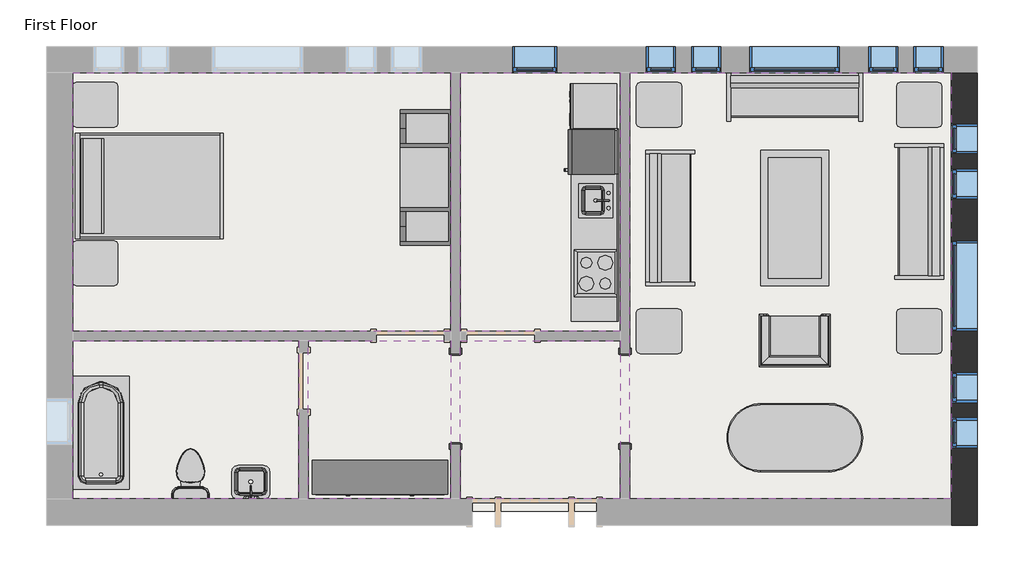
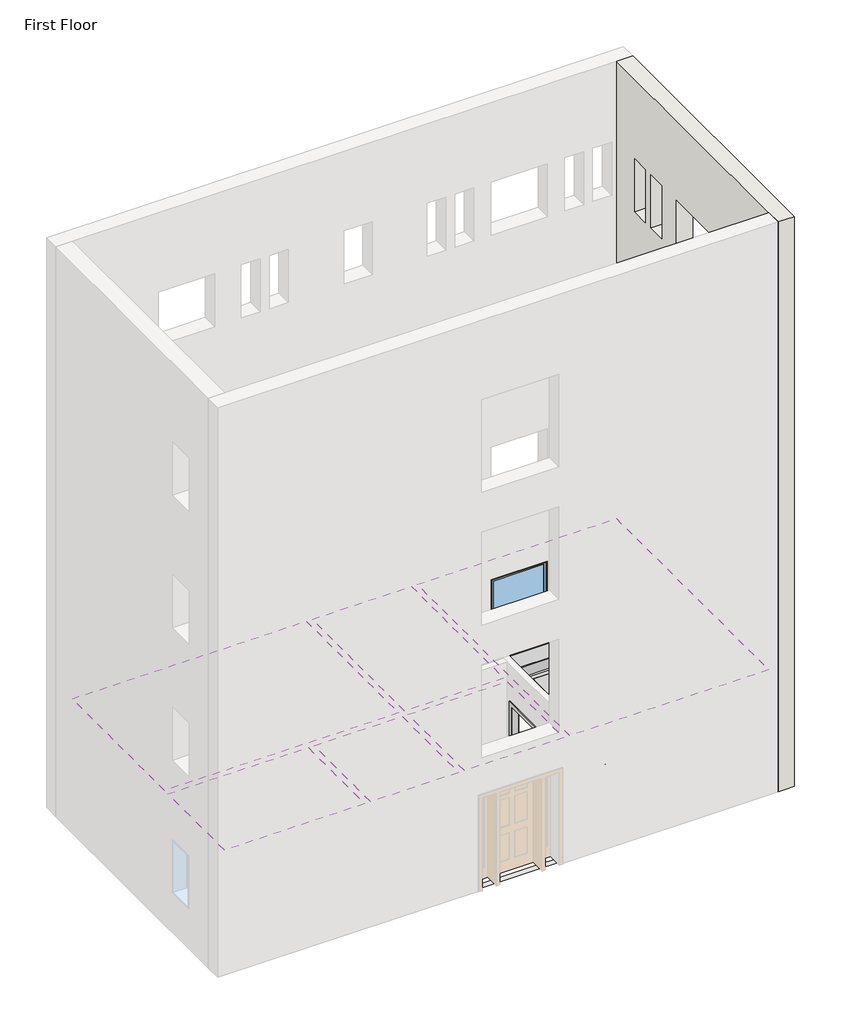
# One storey, part 2 of 2: 16 furniture elements, 11 windows, 6 coverings, 6 proxies, 4 flow terminals, 1 slab, 1 wall.
"""IFC4 building model written with IfcOpenShell, lengths in millimetres."""

from ifc_helpers import new_model, si_unit, frame, origin, place, context, project, spatial, polyline, outline, extrude, faceted_brep, transform, mapped, element, save
from components import proxy_dfcd9396, proxy_3c49123c, proxy_7a545507, proxy_f44482cc, proxy_ec3341c2, flow_terminal_41332a36, flow_terminal_62a433f7, toilet_domestic_3d_toilet_domestic_3d_f7549cf7, toilet_domestic_3d_toilet_domestic_3d_183bbd19, tub_rectangular_3d_tub_rectangular_3d_15036965, furniture_096e7f55, chair_corbu_chair_corbu_2764bdef, furniture_6db689a5, furniture_7c473f12, furniture_cf0b6580, furniture_a4ffab56, furniture_cd93a443, furniture_2c34a4f9, furniture_3a588284, window_da97879f, window_d61ef850, window_60baf983, window_6eb97611

model = new_model("IFC4")

# Units and contexts
model_context = context("Model", 3, world=origin())
ifc_project = project(units=[si_unit("LENGTHUNIT", "METRE", prefix="MILLI")], contexts=[model_context])

# Site, building, storey
site = spatial("IfcSite", under=ifc_project)
building = spatial("IfcBuilding", under=site)
storey = spatial("IfcBuildingStorey", under=building, Name="First Floor", Elevation=0.0)

# Proxies
placement = place(None, origin())
proxy_shape = proxy_dfcd9396(model_context)
element("IfcBuildingElementProxy", 1, Name="Cook Top-4 Unit2 : 22\" x 20\"", ObjectType="Cook Top-4 Unit2 : 22\" x 20\"", at=placement, inside=storey, context=model_context, shape_type="MappedRepresentation", body=[
    mapped(proxy_shape, transform((-4167.1589563, 7568.5224391, 0.0), x_axis=(0.0, 1.0000000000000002, 0.0), y_axis=(-1.0000000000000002, 0.0, 0.0), z_axis=(0.0, 0.0, 1.0))),
])
proxy_2_shape = proxy_3c49123c(model_context)
element("IfcBuildingElementProxy", 2, Name="Dishwasher : 24\" x 24\" x 34\"", ObjectType="Dishwasher : 24\" x 24\" x 34\"", at=placement, inside=storey, context=model_context, shape_type="MappedRepresentation", body=[
    mapped(proxy_2_shape, transform((-4459.0085211, 9434.1049706, 0.0), x_axis=(0.0, 1.0000000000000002, 0.0), y_axis=(-1.0000000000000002, 0.0, 0.0), z_axis=(0.0, 0.0, 1.0))),
])
proxy_3_shape = proxy_7a545507(model_context)
element("IfcBuildingElementProxy", 3, Name="Kitchenette - Medium : 8'6\"", ObjectType="Kitchenette - Medium : 8'6\"", at=placement, inside=storey, context=model_context, shape_type="MappedRepresentation", body=[
    mapped(proxy_3_shape, transform((-3862.3589563, 8197.4847342, 0.0), x_axis=(0.0, 1.0000000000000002, 0.0), y_axis=(-1.0000000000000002, 0.0, 0.0), z_axis=(0.0, 0.0, 1.0))),
])
proxy_4_shape = proxy_f44482cc(model_context)
element("IfcBuildingElementProxy", 4, Name="Opening-Cased : 48\" x 84\"", ObjectType="Opening-Cased : 48\" x 84\"", at=placement, inside=storey, context=model_context, shape_type="MappedRepresentation", body=[
    mapped(proxy_4_shape, transform((-3773.4589563, 5882.4203434, 0.0), x_axis=(0.0, 1.0, 0.0), y_axis=(-1.0, 0.0, 0.0), z_axis=(0.0, 0.0, 1.0))),
])
element("IfcBuildingElementProxy", 5, Name="Opening-Cased : 48\" x 84\"", ObjectType="Opening-Cased : 48\" x 84\"", at=placement, inside=storey, context=model_context, shape_type="MappedRepresentation", body=[
    mapped(proxy_4_shape, transform((-6059.4589563, 5866.04303, 0.0), x_axis=(0.0, -1.0, 0.0), y_axis=(1.0, 0.0, 0.0), z_axis=(0.0, 0.0, 1.0))),
])
proxy_5_shape = proxy_ec3341c2(model_context)
element("IfcBuildingElementProxy", 6, Name="Refrigerator : 24\" x 25\" LH", ObjectType="Refrigerator : 24\" x 25\" LH", at=placement, inside=storey, context=model_context, shape_type="MappedRepresentation", body=[
    mapped(proxy_5_shape, transform((-4212.8079278, 9200.4724391, 0.0), x_axis=(0.0, 1.0000000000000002, 0.0), y_axis=(-1.0000000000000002, 0.0, 0.0), z_axis=(0.0, 0.0, 1.0))),
])

# Coverings
element("IfcCovering", 7, ObjectType="GWB on Mtl. Stud", at=placement, inside=storey, context=model_context, shape_type="SweptSolid", body=[
    extrude(outline(polyline([(-11217.2464563, 10270.0191867), (-6122.9589563, 10270.0191867), (-6122.9589563, 6787.0441867), (-11217.2464563, 6787.0441867), (-11217.2464563, 10270.0191867)])), frame((0.0, 0.0, 2590.8), z_axis=(0.0, 0.0, 1.0), x_axis=(1.0, 0.0, 0.0)), (0.0, 0.0, 1.0), 107.95),
])
element("IfcCovering", 8, ObjectType="GWB on Mtl. Stud", at=placement, inside=storey, context=model_context, shape_type="SweptSolid", body=[
    extrude(outline(polyline([(-5995.9589563, 6787.0441867), (-5995.9589563, 10270.0191867), (-3836.9589563, 10270.0191867), (-3836.9589563, 6787.0441867), (-5995.9589563, 6787.0441867)])), frame((0.0, 0.0, 2590.8), z_axis=(0.0, 0.0, 1.0), x_axis=(1.0, 0.0, 0.0)), (0.0, 0.0, 1.0), 107.95),
])
element("IfcCovering", 9, ObjectType="GWB on Mtl. Stud", at=placement, inside=storey, context=model_context, shape_type="SweptSolid", body=[
    extrude(outline(polyline([(-3709.9589563, 4526.4441867), (-3709.9589563, 10270.0191867), (622.3285437, 10270.0191867), (622.3285437, 4526.4441867), (-3709.9589563, 4526.4441867)])), frame((0.0, 0.0, 2590.8), z_axis=(0.0, 0.0, 1.0), x_axis=(1.0, 0.0, 0.0)), (0.0, 0.0, 1.0), 107.95),
])
element("IfcCovering", 10, ObjectType="GWB on Mtl. Stud", at=placement, inside=storey, context=model_context, shape_type="SweptSolid", body=[
    extrude(outline(polyline([(-3836.9589563, 4526.4441867), (-5995.9589563, 4526.4441867), (-5995.9589563, 6660.0441867), (-3836.9589563, 6660.0441867), (-3836.9589563, 4526.4441867)])), frame((0.0, 0.0, 2590.8), z_axis=(0.0, 0.0, 1.0), x_axis=(1.0, 0.0, 0.0)), (0.0, 0.0, 1.0), 107.95),
])
element("IfcCovering", 11, ObjectType="GWB on Mtl. Stud", at=placement, inside=storey, context=model_context, shape_type="SweptSolid", body=[
    extrude(outline(polyline([(-8169.2464563, 6660.0441867), (-8169.2464563, 4526.4441867), (-11217.2464563, 4526.4441867), (-11217.2464563, 6660.0441867), (-8169.2464563, 6660.0441867)])), frame((0.0, 0.0, 2590.8), z_axis=(0.0, 0.0, 1.0), x_axis=(1.0, 0.0, 0.0)), (0.0, 0.0, 1.0), 107.95),
])
element("IfcCovering", 12, ObjectType="GWB on Mtl. Stud", at=placement, inside=storey, context=model_context, shape_type="SweptSolid", body=[
    extrude(outline(polyline([(-6122.9589563, 4526.4441867), (-8042.2464563, 4526.4441867), (-8042.2464563, 6660.0441867), (-6122.9589563, 6660.0441867), (-6122.9589563, 4526.4441867)])), frame((0.0, 0.0, 2590.8), z_axis=(0.0, 0.0, 1.0), x_axis=(1.0, 0.0, 0.0)), (0.0, 0.0, 1.0), 107.95),
])

# Flow terminals
flow_terminal_shape = flow_terminal_41332a36(model_context)
element("IfcFlowTerminal", 13, ObjectType="Sink Kitchen-Island : 18\" x 18\"", at=placement, inside=storey, context=model_context, shape_type="MappedRepresentation", body=[
    mapped(flow_terminal_shape, transform((-4169.5043574, 8530.7331986, -14.4), x_axis=(0.0, 1.0000000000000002, 0.0), y_axis=(-1.0000000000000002, 0.0, 0.0), z_axis=(0.0, 0.0, 1.0))),
])
flow_terminal_2_shape = flow_terminal_62a433f7(model_context)
element("IfcFlowTerminal", 14, ObjectType="Sink Vanity-Square : 20\" x 18\"", at=placement, inside=storey, context=model_context, shape_type="MappedRepresentation", body=[
    mapped(flow_terminal_2_shape, transform((-8801.2572158, 4706.5895878, 0.0), x_axis=(-1.0, 0.0, 0.0), y_axis=(0.0, -1.0, 0.0), z_axis=(0.0, 0.0, 1.0))),
])
toilet_domestic_3d_toilet_domestic_3d_shape = toilet_domestic_3d_toilet_domestic_3d_f7549cf7(model_context)
toilet_domestic_3d_toilet_domestic_3d_2_shape = toilet_domestic_3d_toilet_domestic_3d_183bbd19(model_context)
element("IfcFlowTerminal", 15, ObjectType="Toilet-Domestic-3D : Toilet-Domestic-3D", at=placement, inside=storey, context=model_context, shape_type="MappedRepresentation", body=[
    mapped(toilet_domestic_3d_toilet_domestic_3d_shape, transform((-9629.7464563, 4894.7441867, 0.0), x_axis=(-1.0, 0.0, 0.0), y_axis=(0.0, -1.0, 0.0), z_axis=(0.0, 0.0, 1.0))),
    mapped(toilet_domestic_3d_toilet_domestic_3d_2_shape, transform((-9629.7464563, 4894.7441867, 0.0), x_axis=(-1.0, 0.0, 0.0), y_axis=(0.0, -1.0, 0.0), z_axis=(0.0, 0.0, 1.0))),
])
tub_rectangular_3d_tub_rectangular_3d_shape = tub_rectangular_3d_tub_rectangular_3d_15036965(model_context)
element("IfcFlowTerminal", 16, ObjectType="Tub-Rectangular-3D : Tub-Rectangular-3D", at=placement, inside=storey, context=model_context, shape_type="MappedRepresentation", body=[
    mapped(tub_rectangular_3d_tub_rectangular_3d_shape, transform((-11393.4589563, 5765.6346554, 0.0), x_axis=(0.0, 1.0, 0.0), y_axis=(-1.0, 0.0, 0.0), z_axis=(0.0, 0.0, 1.0))),
])

# Furniture
furniture_shape = furniture_096e7f55(model_context)
element("IfcFurniture", 17, ObjectType="Bed-Shaker : Double 56\" x 78\"", at=placement, inside=storey, context=model_context, shape_type="MappedRepresentation", body=[
    mapped(furniture_shape, transform((-11172.0857802, 8763.4816867, 0.0), x_axis=(0.0, 1.0, 0.0), y_axis=(-1.0, 0.0, 0.0), z_axis=(0.0, 0.0, 1.0))),
])
chair_corbu_chair_corbu_shape = chair_corbu_chair_corbu_2764bdef(model_context)
element("IfcFurniture", 18, ObjectType="Chair-Corbu : Chair-Corbu", at=placement, inside=storey, context=model_context, shape_type="MappedRepresentation", body=[
    mapped(chair_corbu_chair_corbu_shape, transform((-914.0851858, 7126.8212359, 0.0), x_axis=(-1.0, 0.0, 0.0), y_axis=(0.0, -1.0, 0.0), z_axis=(0.0, 0.0, 1.0))),
])
furniture_2_shape = furniture_6db689a5(model_context)
element("IfcFurniture", 19, ObjectType="Counter Top w Sink Hole : 24\" Depth", at=placement, inside=storey, context=model_context, shape_type="MappedRepresentation", body=[
    mapped(furniture_2_shape, transform((-3862.3589563, 8121.2847342, -14.4), x_axis=(0.0, 1.0000000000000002, 0.0), y_axis=(-1.0000000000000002, 0.0, 0.0), z_axis=(0.0, 0.0, 1.0))),
])
furniture_3_shape = furniture_7c473f12(model_context)
element("IfcFurniture", 20, ObjectType="Dresser : 72\" x 60\" x 18\"", at=placement, inside=storey, context=model_context, shape_type="MappedRepresentation", body=[
    mapped(furniture_3_shape, transform((-6806.2656965, 5181.7071408, 0.0), x_axis=(1.0, 0.0, 0.0), y_axis=(0.0, 1.0, 0.0), z_axis=(0.0, 0.0, 1.0))),
])
furniture_4_shape = furniture_cf0b6580(model_context)
element("IfcFurniture", 21, ObjectType="Entertainment Center : 72\" x 72\" x 24\"", at=placement, inside=storey, context=model_context, shape_type="MappedRepresentation", body=[
    mapped(furniture_4_shape, transform((-6021.3589563, 8857.1441867, 0.0), x_axis=(0.0, -1.0, 0.0), y_axis=(1.0, 0.0, 0.0), z_axis=(0.0, 0.0, 1.0))),
])
furniture_5_shape = furniture_a4ffab56(model_context)
element("IfcFurniture", 22, ObjectType="Sofa : 72\"", at=placement, inside=storey, context=model_context, shape_type="MappedRepresentation", body=[
    mapped(furniture_5_shape, transform((-3017.704858, 8242.2611949, 0.0), x_axis=(0.0, 1.0, 0.0), y_axis=(-1.0, 0.0, 0.0), z_axis=(0.0, 0.0, 1.0))),
])
element("IfcFurniture", 23, ObjectType="Sofa : 72\"", at=placement, inside=storey, context=model_context, shape_type="MappedRepresentation", body=[
    mapped(furniture_5_shape, transform((-1557.8294481, 9801.5748071, 0.0), x_axis=(1.0, 0.0, 0.0), y_axis=(0.0, 1.0, 0.0), z_axis=(0.0, 0.0, 1.0))),
])
element("IfcFurniture", 24, ObjectType="Sofa : 72\"", at=placement, inside=storey, context=model_context, shape_type="MappedRepresentation", body=[
    mapped(furniture_5_shape, transform((42.7869453, 8470.3146785, 0.0), x_axis=(0.0, -1.0, 0.0), y_axis=(1.0, 0.0, 0.0), z_axis=(0.0, 0.0, 1.0))),
])
furniture_6_shape = furniture_cd93a443(model_context)
element("IfcFurniture", 25, ObjectType="Table-Coffee : 36\" x 72\" x 18\"", at=placement, inside=storey, context=model_context, shape_type="MappedRepresentation", body=[
    mapped(furniture_6_shape, transform((-1392.2478785, 8294.36592, 0.0), x_axis=(0.0, 1.0, 0.0), y_axis=(-1.0, 0.0, 0.0), z_axis=(0.0, 0.0, 1.0))),
])
furniture_7_shape = furniture_2c34a4f9(model_context)
element("IfcFurniture", 26, ObjectType="Table-Dining Oval : 36\" x 72\"", at=placement, inside=storey, context=model_context, shape_type="MappedRepresentation", body=[
    mapped(furniture_7_shape, transform((-1085.6392842, 5710.0425473, 0.0), x_axis=(1.0, 0.0, 0.0), y_axis=(0.0, 1.0, 0.0), z_axis=(0.0, 0.0, 1.0))),
])
furniture_8_shape = furniture_3a588284(model_context)
element("IfcFurniture", 27, ObjectType="Table-End : 24\" x 24\"", at=placement, inside=storey, context=model_context, shape_type="MappedRepresentation", body=[
    mapped(furniture_8_shape, transform((-119.5925866, 9684.2316867, 0.0), x_axis=(1.0, 0.0, 0.0), y_axis=(0.0, 1.0, 0.0), z_axis=(0.0, 0.0, 1.0))),
])
element("IfcFurniture", 28, ObjectType="Table-End : 24\" x 24\"", at=placement, inside=storey, context=model_context, shape_type="MappedRepresentation", body=[
    mapped(furniture_8_shape, transform((-11220.9800866, 7550.6316867, 0.0), x_axis=(1.0, 0.0, 0.0), y_axis=(0.0, 1.0, 0.0), z_axis=(0.0, 0.0, 1.0))),
])
element("IfcFurniture", 29, ObjectType="Table-End : 24\" x 24\"", at=placement, inside=storey, context=model_context, shape_type="MappedRepresentation", body=[
    mapped(furniture_8_shape, transform((-11220.9800866, 9684.2316867, 0.0), x_axis=(1.0, 0.0, 0.0), y_axis=(0.0, 1.0, 0.0), z_axis=(0.0, 0.0, 1.0))),
])
element("IfcFurniture", 30, ObjectType="Table-End : 24\" x 24\"", at=placement, inside=storey, context=model_context, shape_type="MappedRepresentation", body=[
    mapped(furniture_8_shape, transform((-3624.7925866, 9684.2316867, 0.0), x_axis=(1.0, 0.0, 0.0), y_axis=(0.0, 1.0, 0.0), z_axis=(0.0, 0.0, 1.0))),
])
element("IfcFurniture", 31, ObjectType="Table-End : 24\" x 24\"", at=placement, inside=storey, context=model_context, shape_type="MappedRepresentation", body=[
    mapped(furniture_8_shape, transform((-3624.7925866, 6634.6441867, 0.0), x_axis=(1.0, 0.0, 0.0), y_axis=(0.0, 1.0, 0.0), z_axis=(0.0, 0.0, 1.0))),
])
element("IfcFurniture", 32, ObjectType="Table-End : 24\" x 24\"", at=placement, inside=storey, context=model_context, shape_type="MappedRepresentation", body=[
    mapped(furniture_8_shape, transform((-119.5925866, 6634.6441867, 0.0), x_axis=(1.0, 0.0, 0.0), y_axis=(0.0, 1.0, 0.0), z_axis=(0.0, 0.0, 1.0))),
])

# Slab
element("IfcSlab", 33, ObjectType="LW Concrete on Metal Deck", at=placement, inside=storey, context=model_context, shape_type="SweptSolid", body=[
    extrude(outline(polyline([(787.4285437, 10435.1191867), (787.4285437, 4361.3441867), (-11382.3464563, 4361.3441867), (-11382.3464563, 10435.1191867), (787.4285437, 10435.1191867)])), frame((0.0, 0.0, -104.775), z_axis=(0.0, 0.0, 1.0), x_axis=(1.0, 0.0, 0.0)), (0.0, 0.0, 1.0), 104.775),
])

# Wall
element("IfcWall", 34, ObjectType="Exterior - Brick on Mtl. Stud", at=placement, inside=storey, context=model_context, shape_type="Brep", body=[
    faceted_brep([(622.3285437, 10270.0191867, 13106.4), (622.3285437, 4526.4441867, 13106.4), (622.3285437, 4174.0191867, 13106.4), (974.7535437, 4174.0191867, 13106.4), (974.7535437, 10270.0191867, 13106.4), (622.3285437, 10270.0191867, 0.0), (622.3285437, 4526.4441867, 0.0), (622.3285437, 4361.3441867, 0.0), (622.3285437, 4174.0191867, 0.0), (622.3285437, 5823.4316867, 8229.6), (622.3285437, 5823.4316867, 7010.4), (622.3285437, 6229.8316867, 7010.4), (622.3285437, 6229.8316867, 8229.6), (622.3285437, 5213.8316867, 8229.6), (622.3285437, 5213.8316867, 7010.4), (622.3285437, 5620.2316867, 7010.4), (622.3285437, 5620.2316867, 8229.6), (622.3285437, 8973.0316867, 8229.6), (622.3285437, 8566.6316867, 8229.6), (622.3285437, 8566.6316867, 7010.4), (622.3285437, 8973.0316867, 7010.4), (622.3285437, 9582.6316867, 8229.6), (622.3285437, 9176.2316867, 8229.6), (622.3285437, 9176.2316867, 7010.4), (622.3285437, 9582.6316867, 7010.4), (622.3285437, 8007.8316867, 8229.6), (622.3285437, 6788.6316867, 8229.6), (622.3285437, 6788.6316867, 7010.4), (622.3285437, 8007.8316867, 7010.4), (622.3285437, 5823.4316867, 5181.6), (622.3285437, 5823.4316867, 3962.4), (622.3285437, 6229.8316867, 3962.4), (622.3285437, 6229.8316867, 5181.6), (622.3285437, 5213.8316867, 5181.6), (622.3285437, 5213.8316867, 3962.4), (622.3285437, 5620.2316867, 3962.4), (622.3285437, 5620.2316867, 5181.6), (622.3285437, 8973.0316867, 5181.6), (622.3285437, 8566.6316867, 5181.6), (622.3285437, 8566.6316867, 3962.4), (622.3285437, 8973.0316867, 3962.4), (622.3285437, 9582.6316867, 5181.6), (622.3285437, 9176.2316867, 5181.6), (622.3285437, 9176.2316867, 3962.4), (622.3285437, 9582.6316867, 3962.4), (622.3285437, 8007.8316867, 5181.6), (622.3285437, 6788.6316867, 5181.6), (622.3285437, 6788.6316867, 3962.4), (622.3285437, 8007.8316867, 3962.4), (622.3285437, 5823.4316867, 11277.6), (622.3285437, 5823.4316867, 10058.4), (622.3285437, 6229.8316867, 10058.4), (622.3285437, 6229.8316867, 11277.6), (622.3285437, 5213.8316867, 11277.6), (622.3285437, 5213.8316867, 10058.4), (622.3285437, 5620.2316867, 10058.4), (622.3285437, 5620.2316867, 11277.6), (622.3285437, 8973.0316867, 11277.6), (622.3285437, 8566.6316867, 11277.6), (622.3285437, 8566.6316867, 10058.4), (622.3285437, 8973.0316867, 10058.4), (622.3285437, 9582.6316867, 11277.6), (622.3285437, 9176.2316867, 11277.6), (622.3285437, 9176.2316867, 10058.4), (622.3285437, 9582.6316867, 10058.4), (622.3285437, 8007.8316867, 11277.6), (622.3285437, 6788.6316867, 11277.6), (622.3285437, 6788.6316867, 10058.4), (622.3285437, 8007.8316867, 10058.4), (622.3285437, 8973.0316867, 2133.6), (622.3285437, 8566.6316867, 2133.6), (622.3285437, 8566.6316867, 914.4), (622.3285437, 8973.0316867, 914.4), (622.3285437, 9582.6316867, 2133.6), (622.3285437, 9176.2316867, 2133.6), (622.3285437, 9176.2316867, 914.4), (622.3285437, 9582.6316867, 914.4), (622.3285437, 8007.8316867, 2133.6), (622.3285437, 6788.6316867, 2133.6), (622.3285437, 6788.6316867, 914.4), (622.3285437, 8007.8316867, 914.4), (622.3285437, 5213.8316867, 2133.6), (622.3285437, 5213.8316867, 914.4), (622.3285437, 5620.2316867, 914.4), (622.3285437, 5620.2316867, 2133.6), (622.3285437, 5823.4316867, 2133.6), (622.3285437, 5823.4316867, 914.4), (622.3285437, 6229.8316867, 914.4), (622.3285437, 6229.8316867, 2133.6), (974.7535437, 10270.0191867, 0.0), (974.7535437, 4174.0191867, 0.0), (974.7535437, 4361.3441867, 0.0), (974.7535437, 5823.4316867, 8229.6), (974.7535437, 6229.8316867, 8229.6), (974.7535437, 6229.8316867, 7010.4), (974.7535437, 5823.4316867, 7010.4), (974.7535437, 5213.8316867, 8229.6), (974.7535437, 5620.2316867, 8229.6), (974.7535437, 5620.2316867, 7010.4), (974.7535437, 5213.8316867, 7010.4), (974.7535437, 8973.0316867, 8229.6), (974.7535437, 8973.0316867, 7010.4), (974.7535437, 8566.6316867, 7010.4), (974.7535437, 8566.6316867, 8229.6), (974.7535437, 9582.6316867, 8229.6), (974.7535437, 9582.6316867, 7010.4), (974.7535437, 9176.2316867, 7010.4), (974.7535437, 9176.2316867, 8229.6), (974.7535437, 8007.8316867, 8229.6), (974.7535437, 8007.8316867, 7010.4), (974.7535437, 6788.6316867, 7010.4), (974.7535437, 6788.6316867, 8229.6), (974.7535437, 5823.4316867, 5181.6), (974.7535437, 6229.8316867, 5181.6), (974.7535437, 6229.8316867, 3962.4), (974.7535437, 5823.4316867, 3962.4), (974.7535437, 5213.8316867, 5181.6), (974.7535437, 5620.2316867, 5181.6), (974.7535437, 5620.2316867, 3962.4), (974.7535437, 5213.8316867, 3962.4), (974.7535437, 8973.0316867, 5181.6), (974.7535437, 8973.0316867, 3962.4), (974.7535437, 8566.6316867, 3962.4), (974.7535437, 8566.6316867, 5181.6), (974.7535437, 9582.6316867, 5181.6), (974.7535437, 9582.6316867, 3962.4), (974.7535437, 9176.2316867, 3962.4), (974.7535437, 9176.2316867, 5181.6), (974.7535437, 8007.8316867, 5181.6), (974.7535437, 8007.8316867, 3962.4), (974.7535437, 6788.6316867, 3962.4), (974.7535437, 6788.6316867, 5181.6), (974.7535437, 5823.4316867, 11277.6), (974.7535437, 6229.8316867, 11277.6), (974.7535437, 6229.8316867, 10058.4), (974.7535437, 5823.4316867, 10058.4), (974.7535437, 5213.8316867, 11277.6), (974.7535437, 5620.2316867, 11277.6), (974.7535437, 5620.2316867, 10058.4), (974.7535437, 5213.8316867, 10058.4), (974.7535437, 8973.0316867, 11277.6), (974.7535437, 8973.0316867, 10058.4), (974.7535437, 8566.6316867, 10058.4), (974.7535437, 8566.6316867, 11277.6), (974.7535437, 9582.6316867, 11277.6), (974.7535437, 9582.6316867, 10058.4), (974.7535437, 9176.2316867, 10058.4), (974.7535437, 9176.2316867, 11277.6), (974.7535437, 8007.8316867, 11277.6), (974.7535437, 8007.8316867, 10058.4), (974.7535437, 6788.6316867, 10058.4), (974.7535437, 6788.6316867, 11277.6), (974.7535437, 8973.0316867, 2133.6), (974.7535437, 8973.0316867, 914.4), (974.7535437, 8566.6316867, 914.4), (974.7535437, 8566.6316867, 2133.6), (974.7535437, 9582.6316867, 2133.6), (974.7535437, 9582.6316867, 914.4), (974.7535437, 9176.2316867, 914.4), (974.7535437, 9176.2316867, 2133.6), (974.7535437, 8007.8316867, 2133.6), (974.7535437, 8007.8316867, 914.4), (974.7535437, 6788.6316867, 914.4), (974.7535437, 6788.6316867, 2133.6), (974.7535437, 5213.8316867, 2133.6), (974.7535437, 5620.2316867, 2133.6), (974.7535437, 5620.2316867, 914.4), (974.7535437, 5213.8316867, 914.4), (974.7535437, 5823.4316867, 2133.6), (974.7535437, 6229.8316867, 2133.6), (974.7535437, 6229.8316867, 914.4), (974.7535437, 5823.4316867, 914.4), (787.4285437, 10270.0191867, 0.0), (787.4285437, 4174.0191867, 0.0), (787.4285437, 4361.3441867, 0.0)], [[[0, 1, 2, 3, 4]], [[5, 6, 7, 8, 2, 1, 0], [9, 10, 11, 12], [13, 14, 15, 16], [17, 18, 19, 20], [21, 22, 23, 24], [25, 26, 27, 28], [29, 30, 31, 32], [33, 34, 35, 36], [37, 38, 39, 40], [41, 42, 43, 44], [45, 46, 47, 48], [49, 50, 51, 52], [53, 54, 55, 56], [57, 58, 59, 60], [61, 62, 63, 64], [65, 66, 67, 68], [69, 70, 71, 72], [73, 74, 75, 76], [77, 78, 79, 80], [81, 82, 83, 84], [85, 86, 87, 88]], [[89, 4, 3, 90, 91], [92, 93, 94, 95], [96, 97, 98, 99], [100, 101, 102, 103], [104, 105, 106, 107], [108, 109, 110, 111], [112, 113, 114, 115], [116, 117, 118, 119], [120, 121, 122, 123], [124, 125, 126, 127], [128, 129, 130, 131], [132, 133, 134, 135], [136, 137, 138, 139], [140, 141, 142, 143], [144, 145, 146, 147], [148, 149, 150, 151], [152, 153, 154, 155], [156, 157, 158, 159], [160, 161, 162, 163], [164, 165, 166, 167], [168, 169, 170, 171]], [[5, 0, 4, 89, 172]], [[2, 8, 173, 90, 3]], [[172, 89, 91, 174]], [[8, 7, 174, 173]], [[174, 91, 90, 173]], [[7, 6, 5, 172, 174]], [[10, 9, 92, 95]], [[11, 10, 95, 94]], [[12, 11, 94, 93]], [[9, 12, 93, 92]], [[14, 13, 96, 99]], [[15, 14, 99, 98]], [[16, 15, 98, 97]], [[13, 16, 97, 96]], [[101, 100, 17, 20]], [[102, 101, 20, 19]], [[103, 102, 19, 18]], [[100, 103, 18, 17]], [[105, 104, 21, 24]], [[106, 105, 24, 23]], [[107, 106, 23, 22]], [[104, 107, 22, 21]], [[109, 108, 25, 28]], [[110, 109, 28, 27]], [[111, 110, 27, 26]], [[108, 111, 26, 25]], [[30, 29, 112, 115]], [[31, 30, 115, 114]], [[32, 31, 114, 113]], [[29, 32, 113, 112]], [[34, 33, 116, 119]], [[35, 34, 119, 118]], [[36, 35, 118, 117]], [[33, 36, 117, 116]], [[121, 120, 37, 40]], [[122, 121, 40, 39]], [[123, 122, 39, 38]], [[120, 123, 38, 37]], [[125, 124, 41, 44]], [[126, 125, 44, 43]], [[127, 126, 43, 42]], [[124, 127, 42, 41]], [[129, 128, 45, 48]], [[130, 129, 48, 47]], [[131, 130, 47, 46]], [[128, 131, 46, 45]], [[50, 49, 132, 135]], [[51, 50, 135, 134]], [[52, 51, 134, 133]], [[49, 52, 133, 132]], [[54, 53, 136, 139]], [[55, 54, 139, 138]], [[56, 55, 138, 137]], [[53, 56, 137, 136]], [[141, 140, 57, 60]], [[142, 141, 60, 59]], [[143, 142, 59, 58]], [[140, 143, 58, 57]], [[145, 144, 61, 64]], [[146, 145, 64, 63]], [[147, 146, 63, 62]], [[144, 147, 62, 61]], [[149, 148, 65, 68]], [[150, 149, 68, 67]], [[151, 150, 67, 66]], [[148, 151, 66, 65]], [[153, 152, 69, 72]], [[154, 153, 72, 71]], [[155, 154, 71, 70]], [[152, 155, 70, 69]], [[157, 156, 73, 76]], [[158, 157, 76, 75]], [[159, 158, 75, 74]], [[156, 159, 74, 73]], [[161, 160, 77, 80]], [[162, 161, 80, 79]], [[163, 162, 79, 78]], [[160, 163, 78, 77]], [[82, 81, 164, 167]], [[83, 82, 167, 166]], [[84, 83, 166, 165]], [[81, 84, 165, 164]], [[86, 85, 168, 171]], [[87, 86, 171, 170]], [[88, 87, 170, 169]], [[85, 88, 169, 168]]]),
])

# Windows
window_shape = window_da97879f(model_context)
element("IfcWindow", 35, ObjectType="Fixed : 16\" x 48\"", at=placement, inside=storey, context=model_context, shape_type="MappedRepresentation", body=[
    mapped(window_shape, transform((-3328.9589563, 10446.2316867, 0.0), x_axis=(-1.0, 0.0, 0.0), y_axis=(0.0, -1.0, 0.0), z_axis=(0.0, 0.0, 1.0))),
])
element("IfcWindow", 36, ObjectType="Fixed : 16\" x 48\"", at=placement, inside=storey, context=model_context, shape_type="MappedRepresentation", body=[
    mapped(window_shape, transform((-2719.3589563, 10446.2316867, 0.0), x_axis=(-1.0, 0.0, 0.0), y_axis=(0.0, -1.0, 0.0), z_axis=(0.0, 0.0, 1.0))),
])
element("IfcWindow", 37, ObjectType="Fixed : 16\" x 48\"", at=placement, inside=storey, context=model_context, shape_type="MappedRepresentation", body=[
    mapped(window_shape, transform((798.5410437, 9417.5316867, 0.0), x_axis=(0.0, 1.0, 0.0), y_axis=(-1.0, 0.0, 0.0), z_axis=(0.0, 0.0, 1.0))),
])
element("IfcWindow", 38, ObjectType="Fixed : 16\" x 48\"", at=placement, inside=storey, context=model_context, shape_type="MappedRepresentation", body=[
    mapped(window_shape, transform((798.5410437, 8807.9316867, 0.0), x_axis=(0.0, 1.0, 0.0), y_axis=(-1.0, 0.0, 0.0), z_axis=(0.0, 0.0, 1.0))),
])
window_2_shape = window_d61ef850(model_context)
element("IfcWindow", 39, ObjectType="Fixed : 16\" x 48\"", at=placement, inside=storey, context=model_context, shape_type="MappedRepresentation", body=[
    mapped(window_2_shape, transform((354.0410437, 10446.2316867, 0.0), x_axis=(1.0, 0.0, 0.0), y_axis=(0.0, 1.0, 0.0), z_axis=(0.0, 0.0, 1.0))),
])
element("IfcWindow", 40, ObjectType="Fixed : 16\" x 48\"", at=placement, inside=storey, context=model_context, shape_type="MappedRepresentation", body=[
    mapped(window_2_shape, transform((-255.5589563, 10446.2316867, 0.0), x_axis=(1.0, 0.0, 0.0), y_axis=(0.0, 1.0, 0.0), z_axis=(0.0, 0.0, 1.0))),
])
element("IfcWindow", 41, ObjectType="Fixed : 16\" x 48\"", at=placement, inside=storey, context=model_context, shape_type="MappedRepresentation", body=[
    mapped(window_2_shape, transform((798.5410437, 5378.9316867, 0.0), x_axis=(0.0, -1.0, 0.0), y_axis=(1.0, 0.0, 0.0), z_axis=(0.0, 0.0, 1.0))),
])
element("IfcWindow", 42, ObjectType="Fixed : 16\" x 48\"", at=placement, inside=storey, context=model_context, shape_type="MappedRepresentation", body=[
    mapped(window_2_shape, transform((798.5410437, 5988.5316867, 0.0), x_axis=(0.0, -1.0, 0.0), y_axis=(1.0, 0.0, 0.0), z_axis=(0.0, 0.0, 1.0))),
])
window_3_shape = window_60baf983(model_context)
element("IfcWindow", 43, ObjectType="Fixed : 24\" x 48\"", at=placement, inside=storey, context=model_context, shape_type="MappedRepresentation", body=[
    mapped(window_3_shape, transform((-5030.7589563, 10446.2316867, 0.0), x_axis=(-1.0, 0.0, 0.0), y_axis=(0.0, -1.0, 0.0), z_axis=(0.0, 0.0, 1.0))),
])
window_4_shape = window_6eb97611(model_context)
element("IfcWindow", 44, ObjectType="Fixed : 48\" x 48\"", at=placement, inside=storey, context=model_context, shape_type="MappedRepresentation", body=[
    mapped(window_4_shape, transform((-1525.5589563, 10446.2316867, 0.0), x_axis=(-1.0, 0.0, 0.0), y_axis=(0.0, -1.0, 0.0), z_axis=(0.0, 0.0, 1.0))),
])
element("IfcWindow", 45, ObjectType="Fixed : 48\" x 48\"", at=placement, inside=storey, context=model_context, shape_type="MappedRepresentation", body=[
    mapped(window_4_shape, transform((798.5410437, 7436.3316867, 0.0), x_axis=(0.0, 1.0, 0.0), y_axis=(-1.0, 0.0, 0.0), z_axis=(0.0, 0.0, 1.0))),
])

save(model, "model.ifc")
